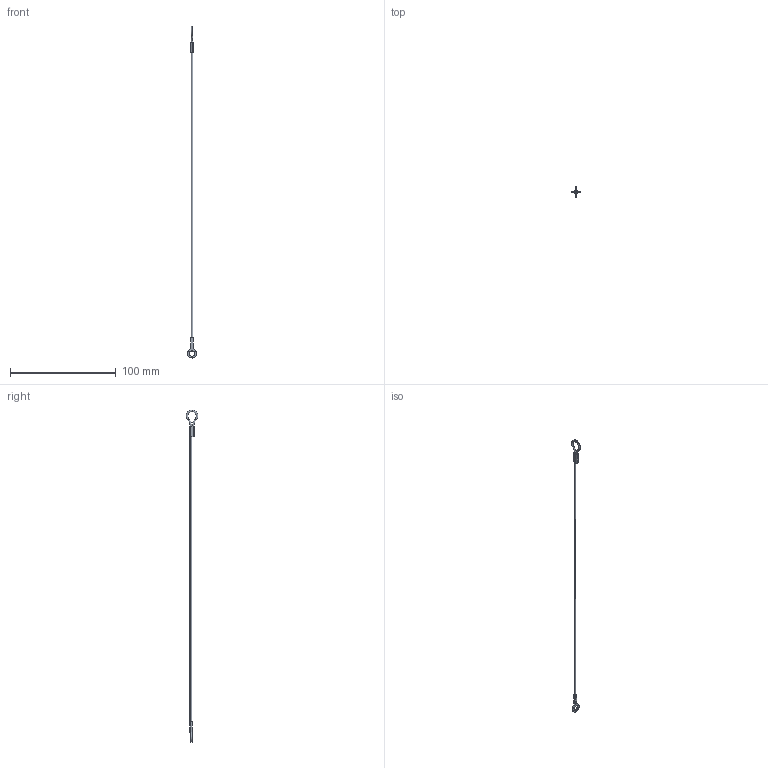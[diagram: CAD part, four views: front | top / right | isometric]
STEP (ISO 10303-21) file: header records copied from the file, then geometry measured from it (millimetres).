
FILE_DESCRIPTION (( 'STEP AP203' ), '1' );
FILE_NAME ('LA1075.I04-304C1.step', '2026-03-23T16:42:36', ( '' ), ( '' ), 'SwSTEP 2.0', 'SolidWorks 2019', '' );
FILE_SCHEMA (( 'CONFIG_CONTROL_DESIGN' ));
Length unit declared in the file: millimetre
Products named in the file (1): LA1075.I04-304C1
Bounding box: 8.36 x 11.16 x 314.58 mm (x, y, z)
Volume: 796.9 mm3; surface area: 1873.6 mm2
Topology: 1 solids, 1 shells, 30 faces, 70 edges, 44 vertices
Faces by surface type: plane 12, cylinder 10, torus 8
Entity records: 953 total; most frequent: DIRECTION 170, CARTESIAN_POINT 145, ORIENTED_EDGE 140, EDGE_CURVE 70, AXIS2_PLACEMENT_3D 69, VERTEX_POINT 44, CIRCLE 38, EDGE_LOOP 36
